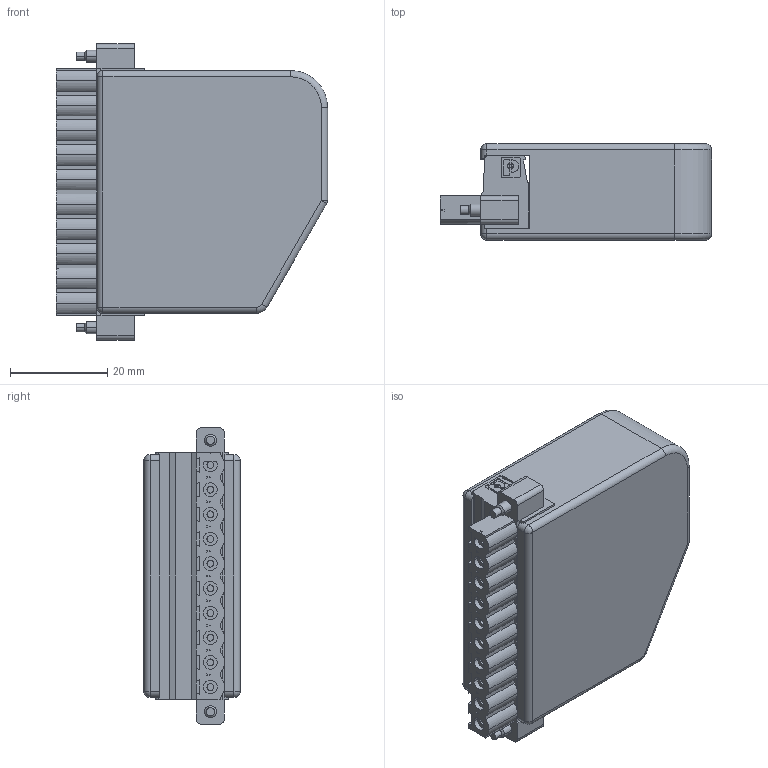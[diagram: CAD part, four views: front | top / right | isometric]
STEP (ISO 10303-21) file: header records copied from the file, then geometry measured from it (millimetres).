
FILE_DESCRIPTION((''),'2;1');
FILE_NAME('CONN_CRIO_10_POS_CMBCN_TB','2007-01-26T',('chrisj'),(''),'PRO/ENGINEER BY PARAMETRIC TECHNOLOGY CORPORATION, 2006080','PRO/ENGINEER BY PARAMETRIC TECHNOLOGY CORPORATION, 2006080','');
FILE_SCHEMA(('AUTOMOTIVE_DESIGN_CC2 { 1 2 10303 214 -1 1 5 2 }'));
Length unit declared in the file: inch
Products named in the file (1): CONN_CRIO_10_POS_CMBCN_TB
Bounding box: 55.8 x 19.81 x 60.96 mm (x, y, z)
Volume: 44114.1 mm3; surface area: 14268.6 mm2
Topology: 2 solids, 2 shells, 648 faces, 1590 edges, 1020 vertices
Faces by surface type: plane 445, cylinder 181, torus 11, sphere 6, cone 4, bspline 1
Entity records: 19063 total; most frequent: DIRECTION 3378, CARTESIAN_POINT 3273, ORIENTED_EDGE 3180, EDGE_CURVE 1590, AXIS2_PLACEMENT_3D 1141, VECTOR 1096, LINE 1096, VERTEX_POINT 1020
